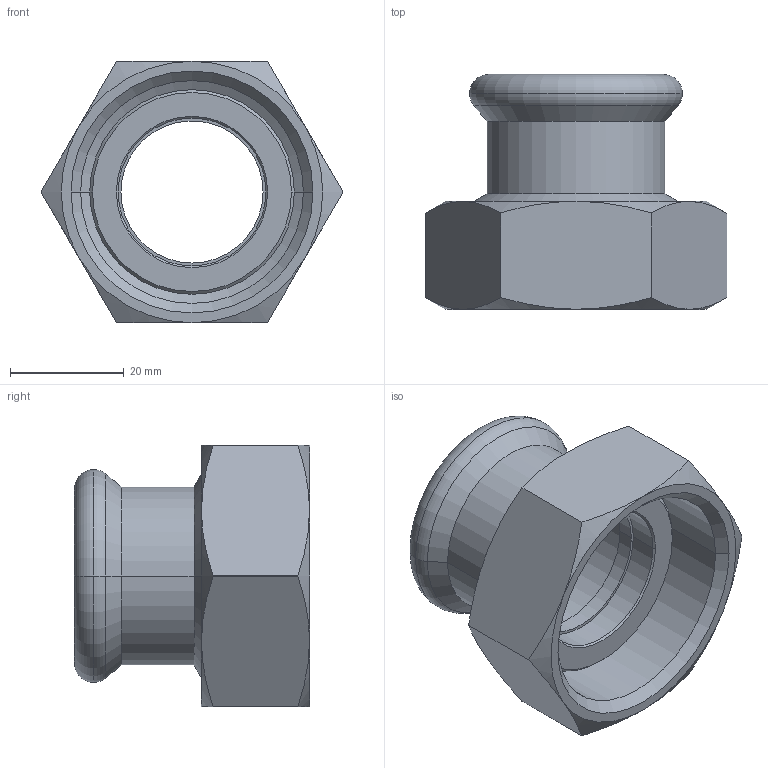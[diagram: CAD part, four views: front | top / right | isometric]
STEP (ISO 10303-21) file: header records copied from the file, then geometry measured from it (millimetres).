
FILE_DESCRIPTION(('CoCreate Modeling STEP Export'),'2;1');
FILE_NAME('C1446 28xG1 1-4.stp','2014-11-12T16:54:50',(''),(''),'CoCreate Modeling STEP processor for AP214 (Solid Model)','CoCreate Modeling 17.00A 17-Jun-2010 (C) Parametric Technology GmbH','');
FILE_SCHEMA(('AUTOMOTIVE_DESIGN { 1 0 10303 214 1 1 1 1 }'));
Length unit declared in the file: millimetre
Products named in the file (2): C1446_28xG1.1-4
Assembly tree (1 placements, depth 2):
  C1446_28xG1.1-4
    C1446_28xG1.1-4
Bounding box: 53.12 x 41.33 x 46 mm (x, y, z)
Volume: 20996 mm3; surface area: 14213.7 mm2
Topology: 1 solids, 2 shells, 84 faces, 182 edges, 106 vertices
Faces by surface type: cone 32, cylinder 28, plane 14, torus 10
Entity records: 2715 total; most frequent: CARTESIAN_POINT 1204, ORIENTED_EDGE 364, DIRECTION 222, EDGE_CURVE 182, VERTEX_POINT 106, EDGE_LOOP 92, AXIS2_PLACEMENT_3D 84, FACE_OUTER_BOUND 84
